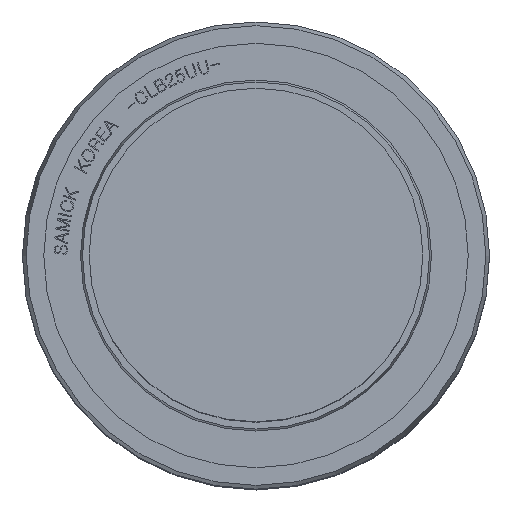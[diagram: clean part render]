
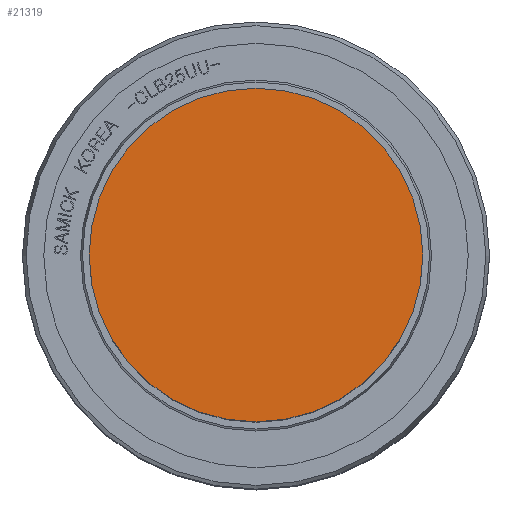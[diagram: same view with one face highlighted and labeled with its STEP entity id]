
A CAD part, top view. The second image highlights one B-rep face of the part: STEP entity #21319.
In plain terms, the highlighted planar face has unit normal (0, 0, 1).
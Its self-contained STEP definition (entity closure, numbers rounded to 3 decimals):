
#800=PLANE('',#22596);
#2666=FACE_OUTER_BOUND('',#3829,.T.);
#3829=EDGE_LOOP('',(#13986));
#8123=CIRCLE('',#22590,12.5);
#8493=VERTEX_POINT('',#26762);
#10677=EDGE_CURVE('',#8493,#8493,#8123,.T.);
#13986=ORIENTED_EDGE('',*,*,#10677,.T.);
#21319=ADVANCED_FACE('',(#2666),#800,.T.);
#22590=AXIS2_PLACEMENT_3D('',#26763,#23591,#23592);
#22596=AXIS2_PLACEMENT_3D('',#26774,#23605,#23606);
#23591=DIRECTION('center_axis',(0.,0.,1.));
#23592=DIRECTION('ref_axis',(-1.,0.,0.));
#23605=DIRECTION('center_axis',(0.,0.,1.));
#23606=DIRECTION('ref_axis',(1.,0.,0.));
#26762=CARTESIAN_POINT('',(12.5,0.,40.));
#26763=CARTESIAN_POINT('Origin',(0.,0.,
40.));
#26774=CARTESIAN_POINT('Origin',(0.,0.,
40.));
